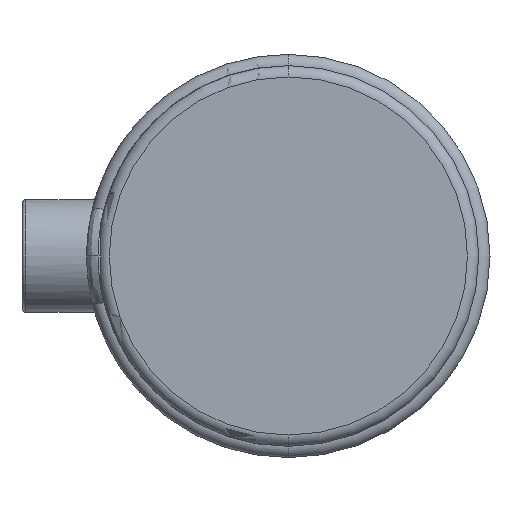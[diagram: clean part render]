
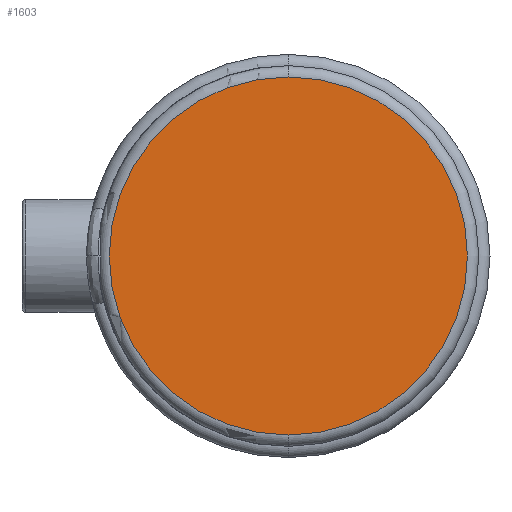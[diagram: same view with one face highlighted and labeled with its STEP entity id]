
A CAD part, left-side view. The second image highlights one B-rep face of the part: STEP entity #1603.
In plain terms, the highlighted planar face has unit normal (-1, 0, 0).
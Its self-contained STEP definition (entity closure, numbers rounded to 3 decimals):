
#27 = CARTESIAN_POINT ( 'NONE',  ( 0., 0., 0. ) ) ;
#296 = CIRCLE ( 'NONE', #512, 47.6 ) ;
#311 = DIRECTION ( 'NONE',  ( 0., 0., 1. ) ) ;
#512 = AXIS2_PLACEMENT_3D ( 'NONE', #4001, #1226, #4438 ) ;
#961 = DIRECTION ( 'NONE',  ( 0., 0., 1. ) ) ;
#980 = EDGE_CURVE ( 'NONE', #4646, #4960, #296, .T. ) ;
#1226 = DIRECTION ( 'NONE',  ( -1., 0., 0. ) ) ;
#1603 = ADVANCED_FACE ( 'NONE', ( #2701 ), #3738, .T. ) ;
#1642 = CARTESIAN_POINT ( 'NONE',  ( 0., 0., -47.6 ) ) ;
#2701 = FACE_OUTER_BOUND ( 'NONE', #5898, .T. ) ;
#2744 = ORIENTED_EDGE ( 'NONE', *, *, #980, .T. ) ;
#3091 = DIRECTION ( 'NONE',  ( -1., 0., 0. ) ) ;
#3163 = ORIENTED_EDGE ( 'NONE', *, *, #3439, .T. ) ;
#3439 = EDGE_CURVE ( 'NONE', #4960, #4646, #4067, .T. ) ;
#3738 = PLANE ( 'NONE',  #4721 ) ;
#3867 = CARTESIAN_POINT ( 'NONE',  ( 0., 0., 47.6 ) ) ;
#4001 = CARTESIAN_POINT ( 'NONE',  ( 0., 0., 0. ) ) ;
#4067 = CIRCLE ( 'NONE', #5294, 47.6 ) ;
#4438 = DIRECTION ( 'NONE',  ( 0., 0., 1. ) ) ;
#4646 = VERTEX_POINT ( 'NONE', #3867 ) ;
#4721 = AXIS2_PLACEMENT_3D ( 'NONE', #27, #5103, #961 ) ;
#4960 = VERTEX_POINT ( 'NONE', #1642 ) ;
#5103 = DIRECTION ( 'NONE',  ( -1., 0., 0. ) ) ;
#5294 = AXIS2_PLACEMENT_3D ( 'NONE', #5897, #3091, #311 ) ;
#5897 = CARTESIAN_POINT ( 'NONE',  ( 0., 0., 0. ) ) ;
#5898 = EDGE_LOOP ( 'NONE', ( #2744, #3163 ) ) ;
